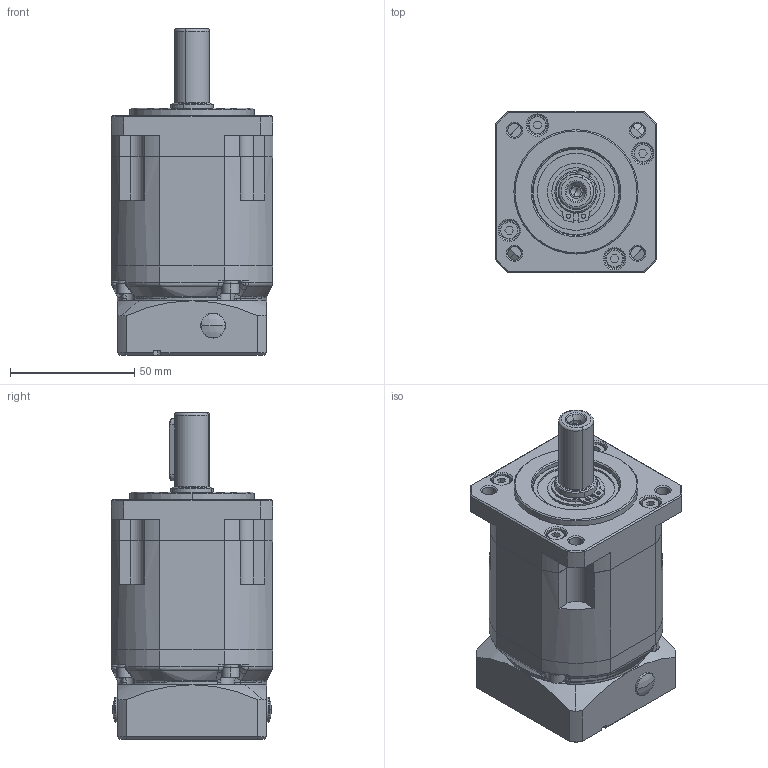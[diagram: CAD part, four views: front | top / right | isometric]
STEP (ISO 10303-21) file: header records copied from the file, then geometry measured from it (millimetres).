
FILE_DESCRIPTION (( 'STEP AP203' ), '1' );
FILE_NAME ('PS70L2-i-P2-S2-8-24-38.1-口47.14-M4.step', '2020-03-30T09:39:03', ( '个人用户' ), ( '微软中国' ), 'SwSTEP 2.0', 'SolidWorks 2018', '' );
FILE_SCHEMA (( 'CONFIG_CONTROL_DESIGN' ));
Products named in the file (1): PS70L2-i-P2-S2-8-24-38.1-諳47.14-M4
Bounding box: 65 x 65 x 131.5 mm (x, y, z)
Volume: 253289.2 mm3; surface area: 101131.6 mm2
Topology: 41 solids, 41 shells, 1473 faces, 3630 edges, 2291 vertices
Faces by surface type: cylinder 493, plane 416, sphere 190, cone 170, torus 166, bspline 38
Entity records: 50174 total; most frequent: CARTESIAN_POINT 14957, DIRECTION 7695, ORIENTED_EDGE 7160, EDGE_CURVE 3580, AXIS2_PLACEMENT_3D 3238, VERTEX_POINT 2287, CIRCLE 1802, EDGE_LOOP 1693
